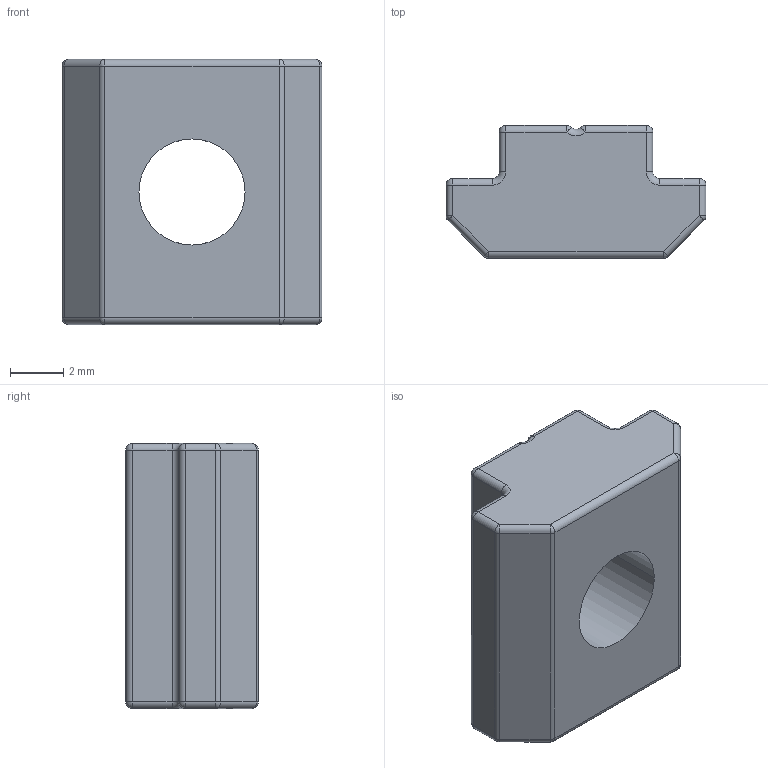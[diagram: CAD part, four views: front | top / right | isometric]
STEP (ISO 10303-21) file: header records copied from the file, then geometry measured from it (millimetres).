
FILE_DESCRIPTION (( 'STEP AP203' ), '1' );
FILE_NAME ('5271.STEP', '2016-04-22T15:29:36', ( '' ), ( '' ), 'SwSTEP 2.0', 'SolidWorks 2014', '' );
FILE_SCHEMA (( 'CONFIG_CONTROL_DESIGN' ));
Length unit declared in the file: millimetre
Products named in the file (1): 5271
Bounding box: 9.8 x 5 x 10 mm (x, y, z)
Volume: 323.3 mm3; surface area: 381.1 mm2
Topology: 1 solids, 1 shells, 79 faces, 182 edges, 88 vertices
Faces by surface type: cylinder 40, sphere 20, plane 13, torus 6
Entity records: 2153 total; most frequent: DIRECTION 406, CARTESIAN_POINT 356, ORIENTED_EDGE 332, EDGE_CURVE 166, AXIS2_PLACEMENT_3D 166, VERTEX_POINT 88, CIRCLE 86, EDGE_LOOP 80
